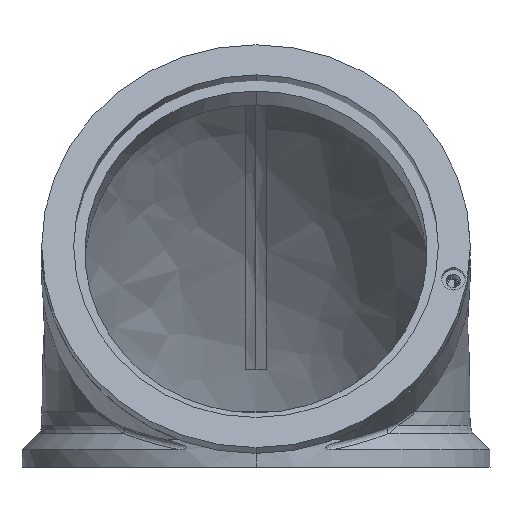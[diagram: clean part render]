
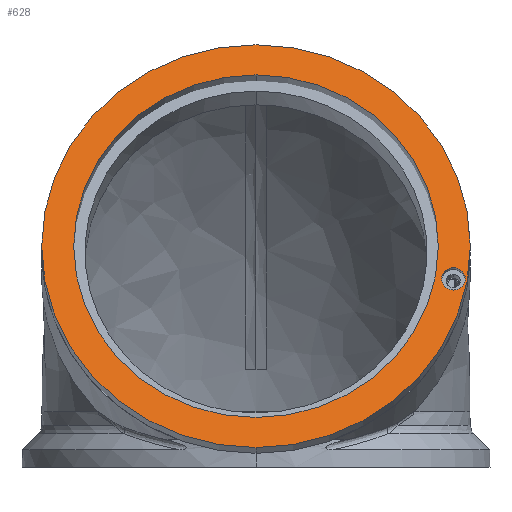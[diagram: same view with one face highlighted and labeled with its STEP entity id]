
A CAD part, left-side view. The second image highlights one B-rep face of the part: STEP entity #628.
In plain terms, the highlighted planar face has unit normal (-0.94, 0, 0.342).
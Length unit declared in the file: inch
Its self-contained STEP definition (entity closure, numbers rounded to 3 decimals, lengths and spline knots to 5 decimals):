
#9 = DIRECTION ( 'NONE',  ( -0.342, 0., -0.94 ) ) ;
#10 = DIRECTION ( 'NONE',  ( 0.342, 0., 0.94 ) ) ;
#51 = ORIENTED_EDGE ( 'NONE', *, *, #4876, .T. ) ;
#167 = CARTESIAN_POINT ( 'NONE',  ( -3.2592, -0.00001, 32.54899 ) ) ;
#429 = VERTEX_POINT ( 'NONE', #4249 ) ;
#444 = EDGE_CURVE ( 'NONE', #429, #4810, #1959, .T. ) ;
#470 = AXIS2_PLACEMENT_3D ( 'NONE', #5228, #4830, #4015 ) ;
#497 = DIRECTION ( 'NONE',  ( 0.94, 0., -0.342 ) ) ;
#504 = ORIENTED_EDGE ( 'NONE', *, *, #444, .T. ) ;
#567 = EDGE_LOOP ( 'NONE', ( #3553, #1826 ) ) ;
#628 = ADVANCED_FACE ( 'NONE', ( #5662, #1663, #3453 ), #3047, .T. ) ;
#660 = CIRCLE ( 'NONE', #1396, 2.91339 ) ;
#693 = EDGE_CURVE ( 'NONE', #3812, #5009, #5597, .T. ) ;
#821 = DIRECTION ( 'NONE',  ( 0.94, 0., -0.342 ) ) ;
#825 = VERTEX_POINT ( 'NONE', #4269 ) ;
#931 = CARTESIAN_POINT ( 'NONE',  ( -2.41155, -0.00001, 34.87787 ) ) ;
#1127 = AXIS2_PLACEMENT_3D ( 'NONE', #5004, #2011, #5523 ) ;
#1394 = CIRCLE ( 'NONE', #2050, 2.47835 ) ;
#1396 = AXIS2_PLACEMENT_3D ( 'NONE', #2221, #4017, #9 ) ;
#1437 = EDGE_CURVE ( 'NONE', #4810, #429, #2348, .T. ) ;
#1556 = CARTESIAN_POINT ( 'NONE',  ( -2.41155, -0.00001, 34.87787 ) ) ;
#1651 = DIRECTION ( 'NONE',  ( -0.342, 0., -0.94 ) ) ;
#1663 = FACE_BOUND ( 'NONE', #567, .T. ) ;
#1826 = ORIENTED_EDGE ( 'NONE', *, *, #3914, .T. ) ;
#1959 = CIRCLE ( 'NONE', #1127, 0.16142 ) ;
#2011 = DIRECTION ( 'NONE',  ( 0.94, 0., -0.342 ) ) ;
#2050 = AXIS2_PLACEMENT_3D ( 'NONE', #1556, #2109, #5671 ) ;
#2109 = DIRECTION ( 'NONE',  ( 0.94, 0., -0.342 ) ) ;
#2221 = CARTESIAN_POINT ( 'NONE',  ( -2.41155, -0.00001, 34.87787 ) ) ;
#2271 = ORIENTED_EDGE ( 'NONE', *, *, #4807, .T. ) ;
#2348 = CIRCLE ( 'NONE', #2824, 0.16142 ) ;
#2607 = ORIENTED_EDGE ( 'NONE', *, *, #1437, .T. ) ;
#2790 = CARTESIAN_POINT ( 'NONE',  ( -1.56391, -0.00001, 37.20676 ) ) ;
#2824 = AXIS2_PLACEMENT_3D ( 'NONE', #4450, #821, #10 ) ;
#3047 = PLANE ( 'NONE',  #470 ) ;
#3141 = DIRECTION ( 'NONE',  ( -0.94, 0., 0.342 ) ) ;
#3277 = AXIS2_PLACEMENT_3D ( 'NONE', #931, #497, #3855 ) ;
#3453 = FACE_BOUND ( 'NONE', #5308, .T. ) ;
#3553 = ORIENTED_EDGE ( 'NONE', *, *, #693, .T. ) ;
#3615 = VERTEX_POINT ( 'NONE', #3863 ) ;
#3737 = CIRCLE ( 'NONE', #5318, 2.91339 ) ;
#3812 = VERTEX_POINT ( 'NONE', #167 ) ;
#3855 = DIRECTION ( 'NONE',  ( -0.342, 0., -0.94 ) ) ;
#3863 = CARTESIAN_POINT ( 'NONE',  ( -1.41512, -0.00001, 37.61556 ) ) ;
#3914 = EDGE_CURVE ( 'NONE', #5009, #3812, #1394, .T. ) ;
#4015 = DIRECTION ( 'NONE',  ( 0.342, 0., 0.94 ) ) ;
#4017 = DIRECTION ( 'NONE',  ( -0.94, 0., 0.342 ) ) ;
#4082 = EDGE_LOOP ( 'NONE', ( #51, #2271 ) ) ;
#4249 = CARTESIAN_POINT ( 'NONE',  ( -2.62856, -2.68303, 34.28165 ) ) ;
#4269 = CARTESIAN_POINT ( 'NONE',  ( -3.40799, -0.00001, 32.14019 ) ) ;
#4321 = CARTESIAN_POINT ( 'NONE',  ( -2.51815, -2.68303, 34.58502 ) ) ;
#4450 = CARTESIAN_POINT ( 'NONE',  ( -2.57335, -2.68303, 34.43333 ) ) ;
#4807 = EDGE_CURVE ( 'NONE', #3615, #825, #3737, .T. ) ;
#4810 = VERTEX_POINT ( 'NONE', #4321 ) ;
#4830 = DIRECTION ( 'NONE',  ( -0.94, 0., 0.342 ) ) ;
#4876 = EDGE_CURVE ( 'NONE', #825, #3615, #660, .T. ) ;
#5004 = CARTESIAN_POINT ( 'NONE',  ( -2.57335, -2.68303, 34.43333 ) ) ;
#5009 = VERTEX_POINT ( 'NONE', #2790 ) ;
#5228 = CARTESIAN_POINT ( 'NONE',  ( -3.24632, 0.43033, 32.58437 ) ) ;
#5308 = EDGE_LOOP ( 'NONE', ( #2607, #504 ) ) ;
#5318 = AXIS2_PLACEMENT_3D ( 'NONE', #5678, #3141, #1651 ) ;
#5523 = DIRECTION ( 'NONE',  ( 0.342, 0., 0.94 ) ) ;
#5597 = CIRCLE ( 'NONE', #3277, 2.47835 ) ;
#5662 = FACE_OUTER_BOUND ( 'NONE', #4082, .T. ) ;
#5671 = DIRECTION ( 'NONE',  ( -0.342, 0., -0.94 ) ) ;
#5678 = CARTESIAN_POINT ( 'NONE',  ( -2.41155, -0.00001, 34.87787 ) ) ;
